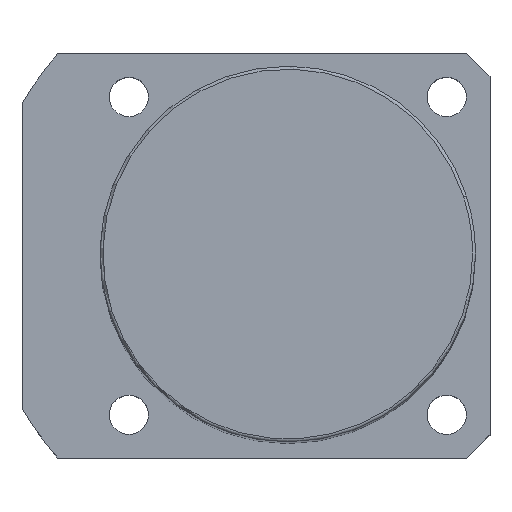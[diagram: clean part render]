
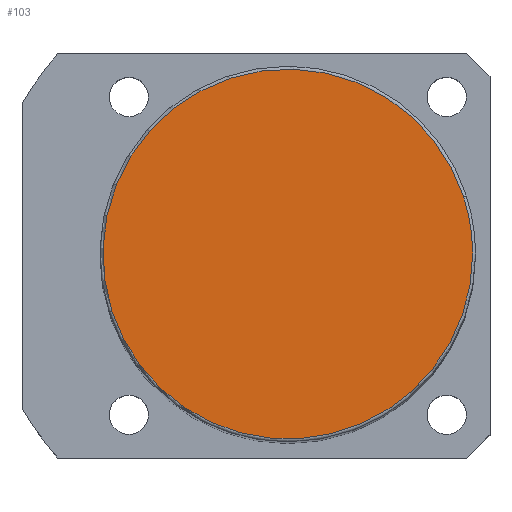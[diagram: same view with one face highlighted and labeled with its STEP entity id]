
A CAD part, top view. The second image highlights one B-rep face of the part: STEP entity #103.
In plain terms, the highlighted planar face has unit normal (0, 0, 1).
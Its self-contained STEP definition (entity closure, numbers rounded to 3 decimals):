
#16=CARTESIAN_POINT('',(-30.434,-9.889,196.0));
#17=VERTEX_POINT('',#16);
#54=CARTESIAN_POINT('',(30.434,9.889,196.0));
#55=VERTEX_POINT('',#54);
#63=CARTESIAN_POINT('',(32.0,0.0,196.0));
#64=VERTEX_POINT('',#63);
#65=CARTESIAN_POINT('',(0.0,0.0,196.0));
#66=DIRECTION('',(0.0,0.0,1.0));
#67=DIRECTION('',(1.0,0.0,0.0));
#68=AXIS2_PLACEMENT_3D('',#65,#66,#67);
#69=CIRCLE('',#68,32.0);
#70=EDGE_CURVE('no 898',#64,#55,#69,.T.);
#72=CARTESIAN_POINT('',(0.0,0.0,196.0));
#73=DIRECTION('',(0.0,0.0,1.0));
#74=DIRECTION('',(1.0,0.0,0.0));
#75=AXIS2_PLACEMENT_3D('',#72,#73,#74);
#76=CIRCLE('',#75,32.0);
#77=EDGE_CURVE('no 902',#17,#64,#76,.T.);
#87=ORIENTED_EDGE('',*,*,#70,.T.);
#88=CARTESIAN_POINT('',(0.0,0.0,196.0));
#89=DIRECTION('',(0.0,0.0,1.0));
#90=DIRECTION('',(1.0,0.0,0.0));
#91=AXIS2_PLACEMENT_3D('',#88,#89,#90);
#92=CIRCLE('',#91,32.0);
#93=EDGE_CURVE('no 911',#55,#17,#92,.T.);
#94=ORIENTED_EDGE('',*,*,#93,.T.);
#95=ORIENTED_EDGE('',*,*,#77,.T.);
#96=EDGE_LOOP('',(#87,#94,#95));
#97=FACE_OUTER_BOUND('',#96,.T.);
#98=CARTESIAN_POINT('',(0.0,0.0,196.0));
#99=DIRECTION('',(0.0,0.0,1.0));
#100=DIRECTION('',(1.0,0.0,0.0));
#101=AXIS2_PLACEMENT_3D('',#98,#99,#100);
#102=PLANE('',#101);
#103=ADVANCED_FACE('no 904',(#97),#102,.T.);
